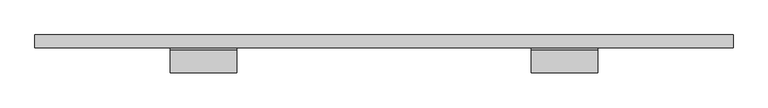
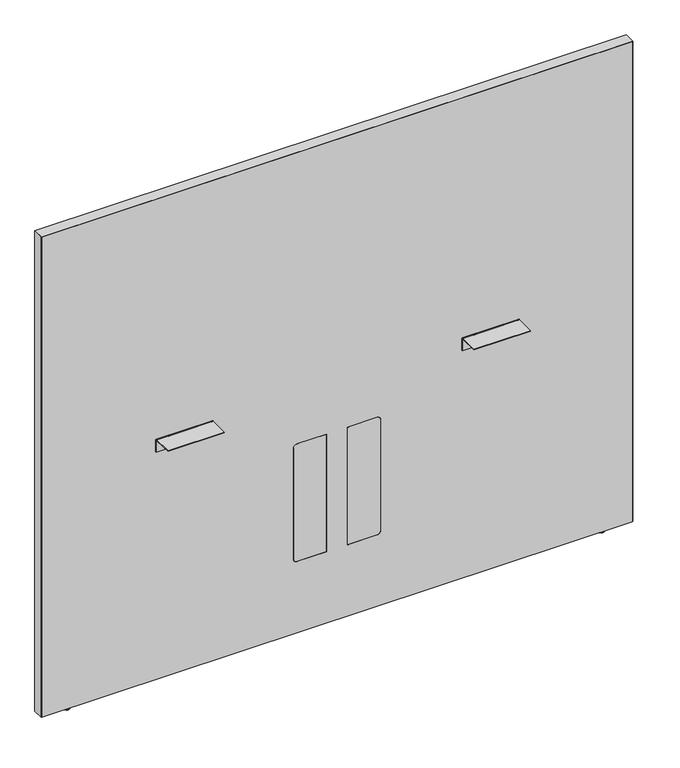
"""IFC4 building model written with IfcOpenShell, lengths in millimetres: furniture geometry, Steelcase - Answer Solution - Boundary Screen - Straight - Spanning : 54H x 63W."""

from ifc_helpers import new_model, si_unit, point, frame, frame_2d, origin, place, context, project, spatial, polyline, circle_curve, ellipse_curve, trimmed, segment, composite_curve, outline, extrude, source, transform, mapped, element, save
from ifc_brep_helpers import plane_surface, cylinder_surface, revolved_surface, advanced_brep


def furniture_e638556d(model_context):
    return source(origin(), model_context, "Body", "SolidModel", [
        advanced_brep(
        [(-493.0902705, -14.8449166, 9.9059849), (-493.0902705, -5.9309607, 9.9059849), (-493.0902705, -23.7588726, 9.9059849), (-493.0902705, -5.9309607, 2.9673238), (-493.0902705, -23.7588726, 2.9673238), (-493.0902705, -6.8982978, 2.9673238), (-493.0902705, -22.7915354, 2.9673238), (-493.0902705, -6.8982978, 1.6569081), (-493.0902705, -22.7915354, 1.6569081), (-493.0902705, -8.5552059, 0.0), (-493.0902705, -21.1346274, 0.0), (-493.0902705, -14.8449166, 0.0)],
        [
            (0, 1),
            (1, 2, circle_curve(frame((-493.0902705, -14.8449166, 9.9059849), z_axis=(0.0, 0.0, 1.0), x_axis=(0.0, 1.0, 0.0)), 8.913956)),
            (2, 0),
            (2, 1, circle_curve(frame((-493.0902705, -14.8449166, 9.9059849), z_axis=(0.0, 0.0, 1.0), x_axis=(0.0, 1.0, 0.0)), 8.913956)),
            (1, 3),
            (3, 4, circle_curve(frame((-493.0902705, -14.8449166, 2.9673238), z_axis=(0.0, 0.0, 1.0), x_axis=(0.0, 1.0, 0.0)), 8.913956)),
            (4, 2),
            (4, 3, circle_curve(frame((-493.0902705, -14.8449166, 2.9673238), z_axis=(0.0, 0.0, 1.0), x_axis=(0.0, 1.0, 0.0)), 8.913956)),
            (3, 5),
            (5, 6, circle_curve(frame((-493.0902705, -14.8449166, 2.9673238), z_axis=(0.0, 0.0, 1.0), x_axis=(0.0, 1.0, 0.0)), 7.9466188)),
            (6, 4),
            (6, 5, circle_curve(frame((-493.0902705, -14.8449166, 2.9673238), z_axis=(0.0, 0.0, 1.0), x_axis=(0.0, 1.0, 0.0)), 7.9466188)),
            (5, 7),
            (7, 8, circle_curve(frame((-493.0902705, -14.8449166, 1.6569081), z_axis=(0.0, 0.0, 1.0), x_axis=(0.0, 1.0, 0.0)), 7.9466188)),
            (8, 6),
            (8, 7, circle_curve(frame((-493.0902705, -14.8449166, 1.6569081), z_axis=(0.0, 0.0, 1.0), x_axis=(0.0, 1.0, 0.0)), 7.9466188)),
            (7, 9, circle_curve(frame((-493.0902705, -8.5552059, 1.6569081), z_axis=(-1.0, 0.0, 0.0), x_axis=(0.0, 1.0, 0.0)), 1.6569081)),
            (9, 10, circle_curve(frame((-493.0902705, -14.8449166, 0.0), z_axis=(0.0, 0.0, 1.0), x_axis=(0.0, 1.0, 0.0)), 6.2897107)),
            (10, 8, circle_curve(frame((-493.0902705, -21.1346274, 1.6569081), z_axis=(-1.0, 0.0, 0.0), x_axis=(0.0, -1.0, 0.0)), 1.6569081)),
            (10, 9, circle_curve(frame((-493.0902705, -14.8449166, 0.0), z_axis=(0.0, 0.0, 1.0), x_axis=(0.0, 1.0, 0.0)), 6.2897107)),
            (9, 11),
            (11, 10),
        ],
        [
            plane_surface(frame((-493.0902705, -14.8449166, 9.9059849), z_axis=(0.0, 0.0, 1.0), x_axis=(0.0, 1.0, 0.0))),
            cylinder_surface(frame((-493.0902705, -14.8449166, 9.9059849), z_axis=(0.0, 0.0, 1.0), x_axis=(0.0, 1.0, 0.0)), 8.913956),
            plane_surface(frame((-493.0902705, -14.8449166, 2.9673238), z_axis=(0.0, 0.0, -1.0), x_axis=(0.0, 1.0, 0.0))),
            cylinder_surface(frame((-493.0902705, -14.8449166, 9.9059849), z_axis=(0.0, 0.0, 1.0), x_axis=(0.0, 1.0, 0.0)), 7.9466188),
            revolved_surface(trimmed(ellipse_curve(frame((-493.0902705, -8.5552059, 1.6569081), z_axis=(1.0, 0.0, 0.0), x_axis=(0.0, 1.0, 0.0)), 1.6569081, 1.6569081), [point((-493.0902705, -8.5552059, 0.0))], [point((-493.0902705, -6.8982978, 1.6569081))], True, "CARTESIAN"), (-493.0902705, -14.8449166, 9.9059849), (0.0, 0.0, 1.0)),
            plane_surface(frame((-493.0902705, -14.8449166, 0.0), z_axis=(0.0, 0.0, -1.0), x_axis=(0.0, 1.0, 0.0))),
        ],
        [
            (0, [[1, 2, 3]]),
            (0, [[-3, 4, -1]]),
            (1, [[-2, 5, 6, 7]]),
            (1, [[-4, -7, 8, -5]]),
            (2, [[-6, 9, 10, 11]]),
            (2, [[-8, -11, 12, -9]]),
            (3, [[-10, 13, 14, 15]]),
            (3, [[-12, -15, 16, -13]]),
            (4, [[-14, 17, 18, 19]]),
            (4, [[-16, -19, 20, -17]]),
            (5, [[-18, 21, 22]]),
            (5, [[-20, -22, -21]]),
        ],
    ),
        extrude(outline(composite_curve([segment(polyline([(-86.8398151, 696.4680019), (-86.8398151, 698.5), (-34.9450855, 698.5)]), True, "CONTINUOUS"), segment(trimmed(circle_curve(frame_2d((-34.9450855, 693.2447477)), 5.2552523), [point((-34.9450855, 698.5))], [point((-29.6898332, 693.2447477))], False, "CARTESIAN"), True, "CONTINUOUS"), segment(polyline([(-29.6898332, 693.2447477), (-29.6898332, 660.4), (-31.7218162, 660.4), (-31.7218162, 693.0058743)]), True, "CONTINUOUS"), segment(trimmed(circle_curve(frame_2d((-35.1839438, 693.0058743)), 3.4621276), [point((-31.7218162, 693.0058743))], [point((-35.1839438, 696.4680019))], True, "CARTESIAN"), True, "CONTINUOUS"), segment(polyline([(-35.1839438, 696.4680019), (-86.8398151, 696.4680019)]), True, "CONTINUOUS")], self_intersect=False)), frame((567.8282189, 0.0, 0.0), z_axis=(1.0, 0.0, 0.0), x_axis=(0.0, 1.0, 0.0)), (0.0, 0.0, 1.0), 152.4000969),
        extrude(outline(composite_curve([segment(polyline([(-86.8398151, 696.4680019), (-86.8398151, 698.5), (-34.9450855, 698.5)]), True, "CONTINUOUS"), segment(trimmed(circle_curve(frame_2d((-34.9450855, 693.2447477)), 5.2552523), [point((-34.9450855, 698.5))], [point((-29.6898332, 693.2447477))], False, "CARTESIAN"), True, "CONTINUOUS"), segment(polyline([(-29.6898332, 693.2447477), (-29.6898332, 660.4), (-31.7218162, 660.4), (-31.7218162, 693.0058743)]), True, "CONTINUOUS"), segment(trimmed(circle_curve(frame_2d((-35.1839438, 693.0058743)), 3.4621276), [point((-31.7218162, 693.0058743))], [point((-35.1839438, 696.4680019))], True, "CARTESIAN"), True, "CONTINUOUS"), segment(polyline([(-35.1839438, 696.4680019), (-86.8398151, 696.4680019)]), True, "CONTINUOUS")], self_intersect=False)), frame((-260.5884581, 0.0, 0.0), z_axis=(1.0, 0.0, 0.0), x_axis=(0.0, 1.0, 0.0)), (0.0, 0.0, 1.0), 152.4000969),
        advanced_brep(
        [(952.7286488, -23.7588726, 9.9059849), (952.7286488, -5.9309607, 9.9059849), (952.7286488, -14.8449166, 9.9059849), (952.7286488, -23.7588726, 2.9673238), (952.7286488, -5.9309607, 2.9673238), (952.7286488, -22.7915354, 2.9673238), (952.7286488, -6.8982978, 2.9673238), (952.7286488, -22.7915354, 1.6569081), (952.7286488, -6.8982978, 1.6569081), (952.7286488, -21.1346274, 0.0), (952.7286488, -8.5552059, 0.0), (952.7286488, -14.8449166, 0.0)],
        [
            (0, 1, circle_curve(frame((952.7286488, -14.8449166, 9.9059849), z_axis=(0.0, 0.0, 1.0), x_axis=(0.0, 1.0, 0.0)), 8.913956)),
            (1, 2),
            (2, 0),
            (1, 0, circle_curve(frame((952.7286488, -14.8449166, 9.9059849), z_axis=(0.0, 0.0, 1.0), x_axis=(0.0, 1.0, 0.0)), 8.913956)),
            (3, 4, circle_curve(frame((952.7286488, -14.8449166, 2.9673238), z_axis=(0.0, 0.0, 1.0), x_axis=(0.0, 1.0, 0.0)), 8.913956)),
            (4, 1),
            (0, 3),
            (4, 3, circle_curve(frame((952.7286488, -14.8449166, 2.9673238), z_axis=(0.0, 0.0, 1.0), x_axis=(0.0, 1.0, 0.0)), 8.913956)),
            (5, 6, circle_curve(frame((952.7286488, -14.8449166, 2.9673238), z_axis=(0.0, 0.0, 1.0), x_axis=(0.0, 1.0, 0.0)), 7.9466188)),
            (6, 4),
            (3, 5),
            (6, 5, circle_curve(frame((952.7286488, -14.8449166, 2.9673238), z_axis=(0.0, 0.0, 1.0), x_axis=(0.0, 1.0, 0.0)), 7.9466188)),
            (7, 8, circle_curve(frame((952.7286488, -14.8449166, 1.6569081), z_axis=(0.0, 0.0, 1.0), x_axis=(0.0, 1.0, 0.0)), 7.9466188)),
            (8, 6),
            (5, 7),
            (8, 7, circle_curve(frame((952.7286488, -14.8449166, 1.6569081), z_axis=(0.0, 0.0, 1.0), x_axis=(0.0, 1.0, 0.0)), 7.9466188)),
            (9, 10, circle_curve(frame((952.7286488, -14.8449166, 0.0), z_axis=(0.0, 0.0, 1.0), x_axis=(0.0, 1.0, 0.0)), 6.2897107)),
            (10, 8, circle_curve(frame((952.7286488, -8.5552059, 1.6569081), z_axis=(1.0, 0.0, 0.0), x_axis=(0.0, 1.0, 0.0)), 1.6569081)),
            (7, 9, circle_curve(frame((952.7286488, -21.1346274, 1.6569081), z_axis=(1.0, 0.0, 0.0), x_axis=(0.0, -1.0, 0.0)), 1.6569081)),
            (10, 9, circle_curve(frame((952.7286488, -14.8449166, 0.0), z_axis=(0.0, 0.0, 1.0), x_axis=(0.0, 1.0, 0.0)), 6.2897107)),
            (11, 10),
            (9, 11),
        ],
        [
            plane_surface(frame((952.7286488, -14.8449166, 9.9059849), z_axis=(0.0, 0.0, 1.0), x_axis=(0.0, 1.0, 0.0))),
            cylinder_surface(frame((952.7286488, -14.8449166, 9.9059849), z_axis=(0.0, 0.0, -1.0), x_axis=(0.0, 1.0, 0.0)), 8.913956),
            plane_surface(frame((952.7286488, -14.8449166, 2.9673238), z_axis=(0.0, 0.0, -1.0), x_axis=(0.0, 1.0, 0.0))),
            cylinder_surface(frame((952.7286488, -14.8449166, 9.9059849), z_axis=(0.0, 0.0, -1.0), x_axis=(0.0, 1.0, 0.0)), 7.9466188),
            revolved_surface(trimmed(ellipse_curve(frame((952.7286488, -8.5552059, 1.6569081), z_axis=(-1.0, 0.0, 0.0), x_axis=(0.0, 1.0, 0.0)), 1.6569081, 1.6569081), [point((952.7286488, -6.8982978, 1.6569081))], [point((952.7286488, -8.5552059, 0.0))], True, "CARTESIAN"), (952.7286488, -14.8449166, 9.9059849), (0.0, 0.0, -1.0)),
            plane_surface(frame((952.7286488, -14.8449166, 0.0), z_axis=(0.0, 0.0, -1.0), x_axis=(0.0, 1.0, 0.0))),
        ],
        [
            (0, [[1, 2, 3]]),
            (0, [[4, -3, -2]]),
            (1, [[5, 6, -1, 7]]),
            (1, [[8, -7, -4, -6]]),
            (2, [[9, 10, -5, 11]]),
            (2, [[12, -11, -8, -10]]),
            (3, [[13, 14, -9, 15]]),
            (3, [[16, -15, -12, -14]]),
            (4, [[17, 18, -13, 19]]),
            (4, [[20, -19, -16, -18]]),
            (5, [[21, -17, 22]]),
            (5, [[-22, -20, -21]]),
        ],
    ),
        advanced_brep(
        [(1028.8780168, 0.0, 1381.542118), (1028.8780168, 0.0, 9.9059849), (-569.2902221, 0.0, 9.9059849), (-569.2902221, 0.0, 1381.542118), (1028.8780168, -29.6898332, 1381.542118), (-569.2902221, -29.6898332, 1381.542118), (-569.2902221, -29.6898332, 9.9059849), (1028.8780168, -29.6898332, 9.9059849), (337.7883813, -29.6898332, 549.6162029), (347.9483813, -29.6898332, 539.4562029), (347.9483813, -29.6898332, 223.9362137), (337.7883813, -29.6898332, 213.7762137), (258.1344836, -29.6898332, 213.7762137), (258.1344836, -29.6898332, 549.6162029), (121.849997, -29.6898332, 549.6162029), (201.5038947, -29.6898332, 549.6162029), (201.5038947, -29.6898332, 213.7762137), (121.849997, -29.6898332, 213.7762137), (111.689997, -29.6898332, 223.9362137), (111.689997, -29.6898332, 539.4562029), (258.1344836, -29.0550397, 549.6162029), (337.7883813, -29.0550397, 549.6162029), (258.1344836, -29.0550397, 213.7762137), (337.7883813, -29.0550397, 213.7762137), (347.9483813, -29.0550397, 223.9362137), (347.9483813, -29.0550397, 539.4562029), (121.849997, -29.0550397, 549.6162029), (111.689997, -29.0550397, 539.4562029), (111.689997, -29.0550397, 223.9362137), (121.849997, -29.0550397, 213.7762137), (201.5038947, -29.0550397, 213.7762137), (201.5038947, -29.0550397, 549.6162029)],
        [
            (0, 1),
            (1, 2),
            (2, 3),
            (3, 0),
            (4, 5),
            (5, 6),
            (6, 7),
            (7, 4),
            (8, 9, circle_curve(frame((337.7883813, -29.6898332, 539.4562029), z_axis=(0.0, 1.0, 0.0), x_axis=(0.0, 0.0, 1.0)), 10.16)),
            (9, 10),
            (10, 11, circle_curve(frame((337.7883813, -29.6898332, 223.9362137), z_axis=(0.0, 1.0, 0.0), x_axis=(0.0, 0.0, 1.0)), 10.16)),
            (11, 12),
            (12, 13),
            (13, 8),
            (14, 15),
            (15, 16),
            (16, 17),
            (17, 18, circle_curve(frame((121.849997, -29.6898332, 223.9362137), z_axis=(0.0, 1.0, 0.0), x_axis=(0.0, 0.0, 1.0)), 10.16)),
            (18, 19),
            (19, 14, circle_curve(frame((121.849997, -29.6898332, 539.4562029), z_axis=(0.0, 1.0, 0.0), x_axis=(0.0, 0.0, 1.0)), 10.16)),
            (0, 4),
            (7, 1),
            (6, 2),
            (5, 3),
            (13, 20),
            (20, 21),
            (21, 8),
            (12, 22),
            (22, 20),
            (11, 23),
            (23, 22),
            (10, 24),
            (24, 23, circle_curve(frame((337.7883813, -29.0550397, 223.9362137), z_axis=(0.0, 1.0, 0.0), x_axis=(0.0, 0.0, 1.0)), 10.16)),
            (9, 25),
            (25, 24),
            (21, 25, circle_curve(frame((337.7883813, -29.0550397, 539.4562029), z_axis=(0.0, 1.0, 0.0), x_axis=(0.0, 0.0, 1.0)), 10.16)),
            (26, 27, circle_curve(frame((121.849997, -29.0550397, 539.4562029), z_axis=(0.0, -1.0, 0.0), x_axis=(0.0, 0.0, 1.0)), 10.16)),
            (27, 28),
            (28, 29, circle_curve(frame((121.849997, -29.0550397, 223.9362137), z_axis=(0.0, -1.0, 0.0), x_axis=(0.0, 0.0, 1.0)), 10.16)),
            (29, 30),
            (30, 31),
            (31, 26),
            (19, 27),
            (26, 14),
            (18, 28),
            (17, 29),
            (16, 30),
            (15, 31),
        ],
        [
            plane_surface(frame((1028.8780168, 0.0, 1381.542118), z_axis=(0.0, 1.0, 0.0), x_axis=(0.0, 0.0, -1.0))),
            plane_surface(frame((1028.8780168, -29.6898332, 1381.542118), z_axis=(0.0, -1.0, 0.0), x_axis=(0.0, 0.0, 1.0))),
            plane_surface(frame((1028.8780168, 0.0, 1381.542118), z_axis=(1.0, 0.0, 0.0), x_axis=(0.0, -1.0, 0.0))),
            plane_surface(frame((1028.8780168, 0.0, 9.9059849), z_axis=(0.0, 0.0, -1.0), x_axis=(0.0, -1.0, 0.0))),
            plane_surface(frame((-569.2902221, 0.0, 9.9059849), z_axis=(-1.0, 0.0, 0.0), x_axis=(0.0, -1.0, 0.0))),
            plane_surface(frame((-569.2902221, 0.0, 1381.542118), z_axis=(0.0, 0.0, 1.0), x_axis=(0.0, -1.0, 0.0))),
            plane_surface(frame((337.7883813, 0.0, 549.6162029), z_axis=(0.0, 0.0, -1.0), x_axis=(0.0, -1.0, 0.0))),
            plane_surface(frame((258.1344836, 0.0, 549.6162029), z_axis=(1.0, 0.0, 0.0), x_axis=(0.0, -1.0, 0.0))),
            plane_surface(frame((258.1344836, 0.0, 213.7762137), z_axis=(0.0, 0.0, 1.0), x_axis=(0.0, -1.0, 0.0))),
            revolved_surface(polyline([(337.7883813, -29.6898332, 234.0962137), (337.7883813, -29.0550397, 234.0962137)]), (337.7883813, -29.6898332, 223.9362137), (0.0, -1.0, 0.0)),
            plane_surface(frame((347.9483813, 0.0, 223.9362137), z_axis=(-1.0, 0.0, 0.0), x_axis=(0.0, -1.0, 0.0))),
            revolved_surface(polyline([(337.7883813, -29.6898332, 549.6162029), (337.7883813, -29.0550397, 549.6162029)]), (337.7883813, -29.6898332, 539.4562029), (0.0, -1.0, 0.0)),
            plane_surface(frame((347.9483813, -29.0550397, 549.6162029), z_axis=(0.0, -1.0, 0.0), x_axis=(0.0, 0.0, 1.0))),
            revolved_surface(polyline([(121.849997, -29.6898332, 549.6162029), (121.849997, -29.0550397, 549.6162029)]), (121.849997, -29.6898332, 539.4562029), (0.0, -1.0, 0.0)),
            plane_surface(frame((111.689997, 0.0, 539.4562029), z_axis=(1.0, 0.0, 0.0), x_axis=(0.0, -1.0, 0.0))),
            revolved_surface(polyline([(121.849997, -29.6898332, 234.0962137), (121.849997, -29.0550397, 234.0962137)]), (121.849997, -29.6898332, 223.9362137), (0.0, -1.0, 0.0)),
            plane_surface(frame((121.849997, 0.0, 213.7762137), z_axis=(0.0, 0.0, 1.0), x_axis=(0.0, -1.0, 0.0))),
            plane_surface(frame((201.5038947, 0.0, 213.7762137), z_axis=(-1.0, 0.0, 0.0), x_axis=(0.0, -1.0, 0.0))),
            plane_surface(frame((201.5038947, 0.0, 549.6162029), z_axis=(0.0, 0.0, -1.0), x_axis=(0.0, -1.0, 0.0))),
        ],
        [
            (0, [[1, 2, 3, 4]]),
            (1, [[5, 6, 7, 8], [9, 10, 11, 12, 13, 14], [15, 16, 17, 18, 19, 20]]),
            (2, [[-1, 21, -8, 22]]),
            (3, [[-2, -22, -7, 23]]),
            (4, [[-3, -23, -6, 24]]),
            (5, [[-4, -24, -5, -21]]),
            (6, [[-14, 25, 26, 27]]),
            (7, [[-13, 28, 29, -25]]),
            (8, [[-12, 30, 31, -28]]),
            (9, [[-11, 32, 33, -30]]),
            (10, [[-10, 34, 35, -32]]),
            (11, [[-9, -27, 36, -34]]),
            (12, [[-26, -29, -31, -33, -35, -36]]),
            (12, [[37, 38, 39, 40, 41, 42]]),
            (13, [[-20, 43, -37, 44]]),
            (14, [[-19, 45, -38, -43]]),
            (15, [[-18, 46, -39, -45]]),
            (16, [[-17, 47, -40, -46]]),
            (17, [[-16, 48, -41, -47]]),
            (18, [[-15, -44, -42, -48]]),
        ],
    ),
        extrude(outline(composite_curve([segment(polyline([(549.6162029, 337.7883813), (549.6162029, 258.1344836), (213.7762137, 258.1344836), (213.7762137, 337.7883813)]), True, "CONTINUOUS"), segment(trimmed(circle_curve(frame_2d((223.9362137, 337.7883813)), 10.16), [point((213.7762137, 337.7883813))], [point((223.9362137, 347.9483813))], False, "CARTESIAN"), True, "CONTINUOUS"), segment(polyline([(223.9362137, 347.9483813), (539.4562029, 347.9483813)]), True, "CONTINUOUS"), segment(trimmed(circle_curve(frame_2d((539.4562029, 337.7883813)), 10.16), [point((539.4562029, 347.9483813))], [point((549.6162029, 337.7883813))], False, "CARTESIAN"), True, "CONTINUOUS")], self_intersect=False)), frame((0.0, -29.6898332, 0.0), z_axis=(0.0, 1.0, 0.0), x_axis=(0.0, 0.0, 1.0)), (0.0, 0.0, 1.0), 0.6347935),
        extrude(outline(composite_curve([segment(trimmed(circle_curve(frame_2d((539.4562029, 121.849997)), 10.16), [point((549.6162029, 121.849997))], [point((539.4562029, 111.689997))], False, "CARTESIAN"), True, "CONTINUOUS"), segment(polyline([(539.4562029, 111.689997), (223.9362137, 111.689997)]), True, "CONTINUOUS"), segment(trimmed(circle_curve(frame_2d((223.9362137, 121.849997)), 10.16), [point((223.9362137, 111.689997))], [point((213.7762137, 121.849997))], False, "CARTESIAN"), True, "CONTINUOUS"), segment(polyline([(213.7762137, 121.849997), (213.7762137, 201.5038947), (549.6162029, 201.5038947), (549.6162029, 121.849997)]), True, "CONTINUOUS")], self_intersect=False)), frame((0.0, -29.6898332, 0.0), z_axis=(0.0, 1.0, 0.0), x_axis=(0.0, 0.0, 1.0)), (0.0, 0.0, 1.0), 0.6347935),
        extrude(outline(polyline([(1382.522, 1029.9191891), (1382.522, -570.2808109), (9.9059849, -570.2808109), (9.9059849, -569.2902221), (1381.542118, -569.2902221), (1381.542118, 1028.8780168), (9.9059849, 1028.8780168), (9.9059849, 1029.9191891), (1382.522, 1029.9191891)])), frame((0.0, -29.6898332, 0.0), z_axis=(0.0, 1.0, 0.0), x_axis=(0.0, 0.0, 1.0)), (0.0, 0.0, 1.0), 29.6898332),
    ])


if __name__ == "__main__":
    model = new_model("IFC4")
    model_context = context("Model", 3, world=origin())
    ifc_project = project(units=[si_unit("LENGTHUNIT", "METRE", prefix="MILLI")], contexts=[model_context])
    site = spatial("IfcSite", under=ifc_project)
    building = spatial("IfcBuilding", under=site)
    placement = place(None, origin())
    furniture_shape = furniture_e638556d(model_context)
    element("IfcFurniture", 1, ObjectType="Steelcase - Answer Solution - Boundary Screen - Straight - Spanning : 54H x 63W", at=placement, inside=building, context=model_context, shape_type="MappedRepresentation", body=[
        mapped(furniture_shape, transform((0.0, 0.0, 0.0), x_axis=(1.0, 0.0, 0.0), y_axis=(0.0, 1.0, 0.0), z_axis=(0.0, 0.0, 1.0))),
    ])
    save(model, "model.ifc")
